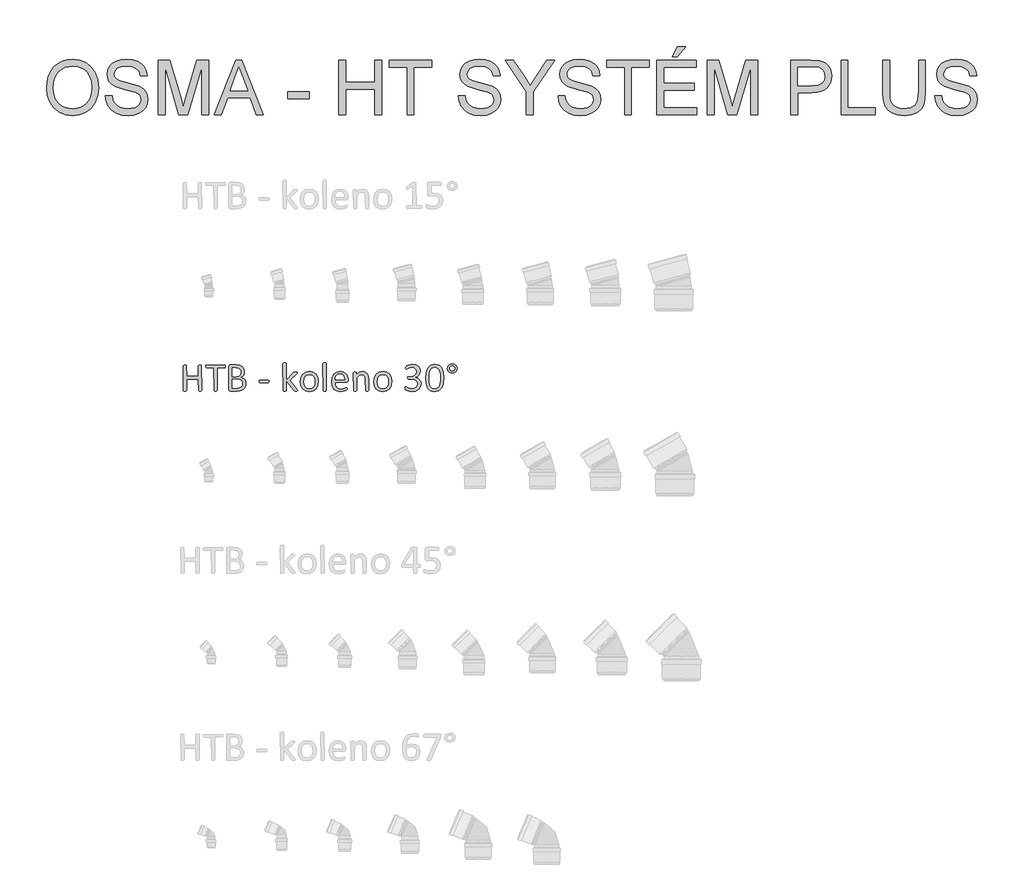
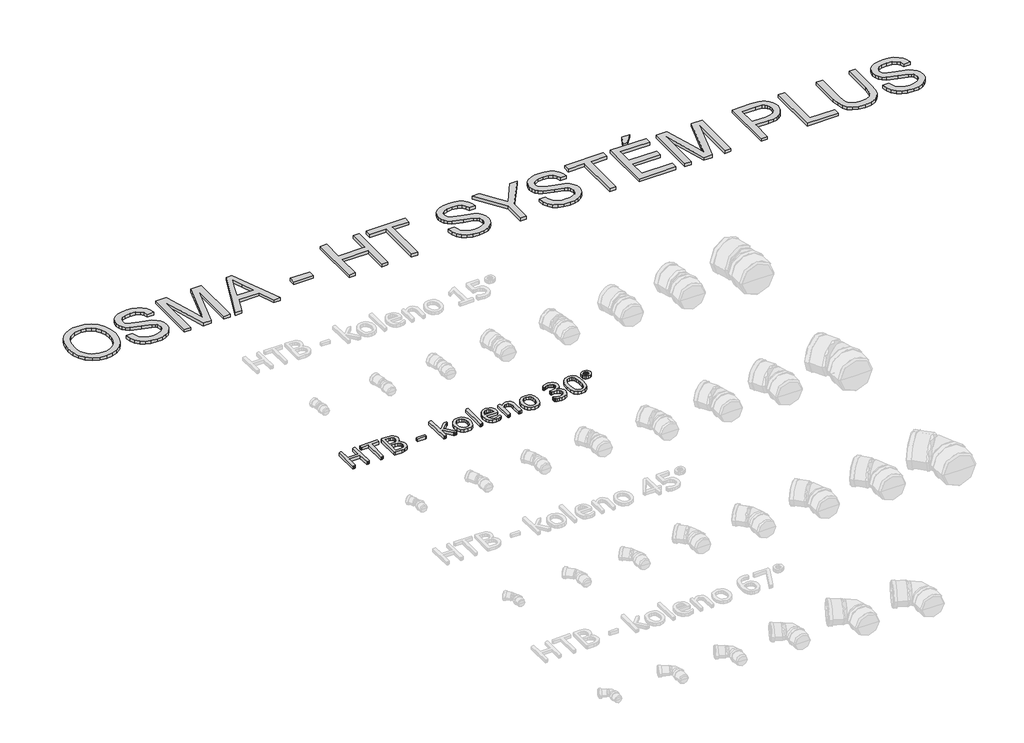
# One storey, part 25 of 26: 2 proxies.
"""IFC4 building model written with IfcOpenShell, lengths in millimetres."""

import ifcopenshell
import ifcopenshell.guid

model = None  # the IFC model being written
_history = None  # IfcOwnerHistory: only IFC2X3 demands one
_inside = {}  # id of a spatial element -> (the spatial element, [elements in it])
_under = {}  # id of a project, library or spatial element -> (it, [spatial elements below it])
_declared = {}  # id of a project -> (the project, [libraries it declares])
_typed = {}  # id of a type object -> (the type object, [elements of that type])
_made_of = {}  # id of a material, layer set ... -> (it, [elements and type objects made of it])


def new_model(schema):
    """Start an empty IFC model of exactly this schema.

    Asked for "IFC4X3", IfcOpenShell would pick the latest addendum, in which some entities
    have other attributes; the version numbers below select the first issue.
    IFC2X3 requires an IfcOwnerHistory on every rooted entity: one is made here for all.
    """
    global model, _history
    if schema == "IFC4X3":
        model = ifcopenshell.file(schema_version=(4, 3, 0, 0))
    else:
        model = ifcopenshell.file(schema=schema)
    _inside.clear()
    _under.clear()
    _declared.clear()
    _typed.clear()
    _made_of.clear()
    _history = None
    if model.schema == "IFC2X3":
        org = make("IfcOrganization", Name="unknown")
        user = make(
            "IfcPersonAndOrganization",
            ThePerson=make("IfcPerson", FamilyName="unknown"),
            TheOrganization=org,
        )
        app = make(
            "IfcApplication",
            ApplicationDeveloper=org,
            Version="unknown",
            ApplicationFullName="unknown",
            ApplicationIdentifier="unknown",
        )
        _history = make(
            "IfcOwnerHistory",
            OwningUser=user,
            OwningApplication=app,
            ChangeAction="ADDED",
            CreationDate=0,
        )
    return model


def make(cls, **values):
    """One entity of the class cls with the attributes given. An attribute that is None is left unset."""
    return model.create_entity(
        cls, **{name: value for name, value in values.items() if value is not None}
    )


def rooted(cls, **values):
    """An entity with a GlobalId (a new one), such as an element, a storey or a relation."""
    return make(cls, GlobalId=ifcopenshell.guid.new(), OwnerHistory=_history, **values)


def si_unit(unit_type, name, prefix=None):
    """IfcSIUnit, for example si_unit("LENGTHUNIT", "METRE", prefix="MILLI")."""
    return make("IfcSIUnit", UnitType=unit_type, Prefix=prefix, Name=name)


def assignment(units):
    """IfcUnitAssignment: the units of a project."""
    return None if units is None else make("IfcUnitAssignment", Units=units)


def point(xyz):
    """IfcCartesianPoint."""
    return None if xyz is None else make("IfcCartesianPoint", Coordinates=xyz)


def direction(xyz):
    """IfcDirection."""
    return None if xyz is None else make("IfcDirection", DirectionRatios=xyz)


def frame(location, z_axis=None, x_axis=None):
    """IfcAxis2Placement3D, a coordinate frame: its origin and axes. An axis left out is left unset."""
    return make(
        "IfcAxis2Placement3D",
        Location=point(location),
        Axis=direction(z_axis),
        RefDirection=direction(x_axis),
    )


def origin():
    """The frame at (0, 0, 0) with its axes left unset."""
    return frame((0.0, 0.0, 0.0))


def origin_with_axes():
    """The frame at (0, 0, 0) with the z axis (0, 0, 1) and the x axis (1, 0, 0) written out."""
    return frame((0.0, 0.0, 0.0), z_axis=(0.0, 0.0, 1.0), x_axis=(1.0, 0.0, 0.0))


def place(relative_to, where):
    """IfcLocalPlacement: puts the frame where relative to a parent placement (None: the world)."""
    return make(
        "IfcLocalPlacement", PlacementRelTo=relative_to, RelativePlacement=where
    )


def context(
    kind, dimensions, precision=None, world=None, true_north=None, identifier=None
):
    """IfcGeometricRepresentationContext, for example the 3D "Model" context."""
    return make(
        "IfcGeometricRepresentationContext",
        ContextIdentifier=identifier,
        ContextType=kind,
        CoordinateSpaceDimension=dimensions,
        Precision=precision,
        WorldCoordinateSystem=world,
        TrueNorth=true_north,
    )


def project(units=None, contexts=None):
    """IfcProject with its units and contexts."""
    return rooted(
        "IfcProject",
        Name="project",
        RepresentationContexts=contexts,
        UnitsInContext=assignment(units),
    )


def spatial(cls, under=None, at=None, **own):
    """A site, building, storey or space (cls), placed at a placement, below another one or the project."""
    s = rooted(cls, ObjectPlacement=at, **own)
    if under is not None:
        _under.setdefault(under.id(), (under, []))[1].append(s)
    return s


def polyline(points):
    """IfcPolyline through the points."""
    return make("IfcPolyline", Points=[point(p) for p in points])


def outline(outer, holes=None, kind="AREA"):
    """IfcArbitraryClosedProfileDef: a profile drawn as a closed curve; with holes, ...WithVoids."""
    if holes is None:
        return make("IfcArbitraryClosedProfileDef", ProfileType=kind, OuterCurve=outer)
    return make(
        "IfcArbitraryProfileDefWithVoids",
        ProfileType=kind,
        OuterCurve=outer,
        InnerCurves=holes,
    )


def extrude(swept, where, along, depth):
    """IfcExtrudedAreaSolid: the profile swept, set in the frame where, extruded along a direction by depth."""
    return make(
        "IfcExtrudedAreaSolid",
        SweptArea=swept,
        Position=where,
        ExtrudedDirection=direction(along),
        Depth=depth,
    )


def shape(context_of_items, identifier, shape_type, items):
    """IfcShapeRepresentation: the items that make up one representation, for example the "Body"."""
    return make(
        "IfcShapeRepresentation",
        ContextOfItems=context_of_items,
        RepresentationIdentifier=identifier,
        RepresentationType=shape_type,
        Items=items,
    )


def made_of(thing, what):
    """Note that an element or type object is made of a material, layer set ...; save() writes the relation."""
    if what is not None:
        _made_of.setdefault(what.id(), (what, []))[1].append(thing)
    return thing


def element(
    cls,
    number,
    at=None,
    inside=None,
    cuts=None,
    type_object=None,
    material=None,
    context=None,
    identifier="Body",
    shape_type=None,
    held_by="IfcProductDefinitionShape",
    body=None,
    shapes=None,
    **own,
):
    """One element of the class cls, such as IfcWall. Its Tag is "e" and its number.

    at: its placement. inside: the storey or other place that contains it. cuts: it is an
    opening in that element (IfcRelVoidsElement). A single representation is given by context,
    identifier, shape_type and body (its items); several are given by shapes. held_by: the class
    of the entity that holds the representations. save() writes the other relations.
    """
    e = rooted(cls, Tag="e%d" % number, ObjectPlacement=at, **own)
    if body is not None:
        shapes = [shape(context, identifier, shape_type, body)]
    if shapes is not None:
        e.Representation = make(held_by, Representations=shapes)
    if inside is not None:
        _inside.setdefault(inside.id(), (inside, []))[1].append(e)
    if cuts is not None:
        rooted(
            "IfcRelVoidsElement", RelatingBuildingElement=cuts, RelatedOpeningElement=e
        )
    if type_object is not None:
        _typed.setdefault(type_object.id(), (type_object, []))[1].append(e)
    return made_of(e, material)


def aggregate(whole, parts):
    """IfcRelAggregates: a whole, such as a stair, and the parts it consists of."""
    return rooted("IfcRelAggregates", RelatingObject=whole, RelatedObjects=parts)


def save(model, path):
    """Write the relations noted so far, then the file.

    IfcRelAggregates (storeys below a building ...), IfcRelContainedInSpatialStructure (elements
    in a storey), IfcRelDefinesByType, IfcRelAssociatesMaterial and IfcRelDeclares: one each for
    every whole, place, type object, material and project.
    """
    for whole, parts in _under.values():
        aggregate(whole, parts)
    for where, things in _inside.values():
        rooted(
            "IfcRelContainedInSpatialStructure",
            RelatedElements=things,
            RelatingStructure=where,
        )
    for kind, things in _typed.values():
        rooted("IfcRelDefinesByType", RelatedObjects=things, RelatingType=kind)
    for what, things in _made_of.values():
        rooted("IfcRelAssociatesMaterial", RelatedObjects=things, RelatingMaterial=what)
    for by, libraries in _declared.values():
        rooted("IfcRelDeclares", RelatingContext=by, RelatedDefinitions=libraries)
    model.write(path)


model = new_model("IFC4")

# Units and contexts
model_context = context("Model", 3, world=origin())
ifc_project = project(units=[si_unit("LENGTHUNIT", "METRE", prefix="MILLI")], contexts=[model_context])

# Site, building, storey
site = spatial("IfcSite", under=ifc_project)
building = spatial("IfcBuilding", under=site)
storey = spatial("IfcBuildingStorey", under=building, Name="Podlaží 1", Elevation=0.0)

# Proxies
placement = place(None, origin())
element("IfcBuildingElementProxy", 1, Name="100mm Arial", ObjectType="100mm Arial", at=placement, inside=storey, context=model_context, shape_type="SweptSolid", body=[
    extrude(outline(polyline([(-21168.6123917, 22699.0159257), (-21166.5200628, 22728.4733101), (-21160.2430763, 22754.5507786), (-21149.781432, 22777.2483313), (-21135.1351301, 22796.5659681), (-21117.1817223, 22811.9901872), (-21096.7987605, 22823.0074865), (-21073.9862447, 22829.6178661), (-21048.7441749, 22831.821326), (-21015.8034079, 22827.6826536), (-20986.2655494, 22815.2666362), (-20961.740083, 22795.4469937), (-20943.8364926, 22769.0974458), (-20932.8920032, 22737.4902511), (-20929.2438401, 22701.897668), (-20933.0836085, 22665.8299041), (-20944.6029134, 22633.7781853), (-20963.1656258, 22607.3826521), (-20988.1356162, 22588.2834452), (-21017.4205558, 22576.6951624), (-21048.9281159, 22572.8324014), (-21082.3747206, 22577.1013654), (-21112.0811917, 22589.9082573), (-21136.5453444, 22610.0957818), (-21154.2649938, 22636.5066434), (-21165.0255422, 22666.895229), (-21168.6123917, 22699.0159257)]), holes=[polyline([(-21137.2197947, 22698.7093574), (-21135.6505481, 22677.8972), (-21130.9428082, 22659.422626), (-21123.096575, 22643.2856356), (-21112.1118486, 22629.4862287), (-21098.7588818, 22618.4344404), (-21083.8079276, 22610.5403059), (-21067.2589859, 22605.8038252), (-21049.1120569, 22604.2249983), (-21030.6547274, 22605.8191536), (-21013.9103485, 22610.6016196), (-20998.8789201, 22618.5723961), (-20985.5604422, 22629.7314833), (-20974.65619, 22643.8221302), (-20966.8674383, 22660.5875857), (-20962.1941874, 22680.0278498), (-20960.636437, 22702.1429227), (-20963.3035815, 22729.9333418), (-20971.3050149, 22753.9529704), (-20984.4338036, 22773.5963361), (-21002.483014, 22788.2579664), (-21024.2570296, 22797.3860384), (-21048.5602339, 22800.4287291), (-21082.3287354, 22794.5656098), (-21111.0388594, 22776.9762519), (-21122.4930186, 22763.289892), (-21130.6745609, 22745.6832897), (-21135.5834863, 22724.1564448), (-21137.2197947, 22698.7093574)])]), origin_with_axes(), (0.0, 0.0, 1.0), 15.0),
    extrude(outline(polyline([(-20897.8512432, 22663.0861176), (-20866.4586463, 22663.0861176), (-20862.8564684, 22645.6653722), (-20856.3418914, 22631.6628638), (-20846.1791513, 22620.5497619), (-20831.6324841, 22611.7972361), (-20813.851521, 22606.1180578), (-20793.9858932, 22604.2249983), (-20776.49617, 22605.6582053), (-20761.183082, 22609.9578261), (-20748.7747289, 22616.763643), (-20739.9992104, 22625.7154382), (-20734.7798846, 22635.9931414), (-20733.0401094, 22646.7766824), (-20738.251771, 22666.3663987), (-20746.1918907, 22674.1149132), (-20759.5889267, 22680.621826), (-20805.2982646, 22692.6086477), (-20854.5024814, 22708.0903483), (-20870.129802, 22718.6516272), (-20881.2045829, 22731.450855), (-20887.8034662, 22746.21212), (-20890.003094, 22762.6595109), (-20887.2823001, 22781.0459465), (-20879.1199183, 22798.1907803), (-20865.7305465, 22812.7221191), (-20847.3287825, 22823.2680696), (-20825.2405344, 22829.6830119), (-20800.7917101, 22831.821326), (-20774.3042065, 22829.5833772), (-20751.1276408, 22822.8695308), (-20732.0897475, 22811.8177425), (-20718.0182612, 22796.5659681), (-20709.1124513, 22778.0645695), (-20705.5715871, 22757.2639083), (-20736.964184, 22757.2639083), (-20742.7276686, 22775.9952332), (-20754.7451471, 22789.5148966), (-20773.5224573, 22797.700271), (-20799.5654368, 22800.4287291), (-20826.2215531, 22797.7309278), (-20844.5083539, 22789.6375239), (-20855.0849613, 22777.7273443), (-20858.6104971, 22763.5792159), (-20856.1119652, 22751.5157521), (-20848.6163695, 22741.8128645), (-20830.8967201, 22733.1369808), (-20797.3581449, 22724.2771561), (-20741.8079636, 22708.519544), (-20723.9120374, 22697.1305305), (-20711.4270421, 22683.0743726), (-20704.0923949, 22666.5043544), (-20701.6475124, 22647.5737601), (-20704.4602769, 22628.2216343), (-20712.8985701, 22610.0191397), (-20726.6175029, 22594.3534981), (-20745.2721857, 22582.6119311), (-20767.7053232, 22575.2772838), (-20792.7596199, 22572.8324014), (-20823.5160876, 22575.468889), (-20848.8309673, 22583.3783519), (-20868.9954992, 22596.5914469), (-20884.300923, 22615.1388308), (-20894.126438, 22637.7329167), (-20897.8512432, 22663.0861176)])), origin_with_axes(), (0.0, 0.0, 1.0), 15.0),
    extrude(outline(polyline([(-20654.5586171, 22576.756476), (-20654.5586171, 22827.8972514), (-20600.5412774, 22827.8972514), (-20549.1604254, 22650.884698), (-20538.7984159, 22613.9125575), (-20527.5780151, 22653.9503813), (-20477.0555544, 22827.8972514), (-20423.0382148, 22827.8972514), (-20423.0382148, 22576.756476), (-20454.4308117, 22576.756476), (-20454.4308117, 22796.5046545), (-20517.5225739, 22576.756476), (-20560.074258, 22576.756476), (-20623.1660201, 22796.5046545), (-20623.1660201, 22576.756476), (-20654.5586171, 22576.756476)])), origin_with_axes(), (0.0, 0.0, 1.0), 15.0),
    extrude(outline(polyline([(-20397.3477888, 22576.756476), (-20297.0999451, 22827.8972514), (-20270.3671868, 22827.8972514), (-20170.1193431, 22576.756476), (-20203.2900363, 22576.756476), (-20232.0461456, 22655.2379683), (-20335.4822999, 22655.2379683), (-20364.1770955, 22576.756476), (-20397.3477888, 22576.756476)]), holes=[polyline([(-20323.9553307, 22686.6305652), (-20243.5118011, 22686.6305652), (-20266.1365438, 22748.3734268), (-20283.7335659, 22796.5046545), (-20299.3685507, 22753.7690294), (-20323.9553307, 22686.6305652)])]), origin_with_axes(), (0.0, 0.0, 1.0), 15.0),
    extrude(outline(polyline([(-20058.0992755, 22651.3138937), (-20058.0992755, 22682.7064906), (-19959.9974102, 22682.7064906), (-19959.9974102, 22651.3138937), (-20058.0992755, 22651.3138937)])), origin_with_axes(), (0.0, 0.0, 1.0), 15.0),
    extrude(outline(polyline([(-19822.6547986, 22576.756476), (-19822.6547986, 22827.8972514), (-19791.2622017, 22827.8972514), (-19791.2622017, 22725.8713114), (-19657.8436648, 22725.8713114), (-19657.8436648, 22827.8972514), (-19626.4510679, 22827.8972514), (-19626.4510679, 22576.756476), (-19657.8436648, 22576.756476), (-19657.8436648, 22694.4787145), (-19791.2622017, 22694.4787145), (-19791.2622017, 22576.756476), (-19822.6547986, 22576.756476)])), origin_with_axes(), (0.0, 0.0, 1.0), 15.0),
    extrude(outline(polyline([(-19508.7288294, 22576.756476), (-19508.7288294, 22796.5046545), (-19591.1343963, 22796.5046545), (-19591.1343963, 22827.8972514), (-19394.9306656, 22827.8972514), (-19394.9306656, 22796.5046545), (-19477.3362325, 22796.5046545), (-19477.3362325, 22576.756476), (-19508.7288294, 22576.756476)])), origin_with_axes(), (0.0, 0.0, 1.0), 15.0),
    extrude(outline(polyline([(-19273.2843525, 22663.0861176), (-19241.8917556, 22663.0861176), (-19238.2895777, 22645.6653722), (-19231.7750007, 22631.6628638), (-19221.6122606, 22620.5497619), (-19207.0655934, 22611.7972361), (-19189.2846303, 22606.1180578), (-19169.4190025, 22604.2249983), (-19151.9292793, 22605.6582053), (-19136.6161913, 22609.9578261), (-19124.2078382, 22616.763643), (-19115.4323197, 22625.7154382), (-19110.2129939, 22635.9931414), (-19108.4732187, 22646.7766824), (-19113.6848803, 22666.3663987), (-19121.625, 22674.1149132), (-19135.022036, 22680.621826), (-19180.7313739, 22692.6086477), (-19229.9355907, 22708.0903483), (-19245.5629113, 22718.6516272), (-19256.6376922, 22731.450855), (-19263.2365755, 22746.21212), (-19265.4362033, 22762.6595109), (-19262.7154094, 22781.0459465), (-19254.5530276, 22798.1907803), (-19241.1636558, 22812.7221191), (-19222.7618918, 22823.2680696), (-19200.6736437, 22829.6830119), (-19176.2248194, 22831.821326), (-19149.7373158, 22829.5833772), (-19126.5607501, 22822.8695308), (-19107.5228568, 22811.8177425), (-19093.4513705, 22796.5659681), (-19084.5455606, 22778.0645695), (-19081.0046964, 22757.2639083), (-19112.3972933, 22757.2639083), (-19118.1607779, 22775.9952332), (-19130.1782564, 22789.5148966), (-19148.9555666, 22797.700271), (-19174.9985461, 22800.4287291), (-19201.6546624, 22797.7309278), (-19219.9414632, 22789.6375239), (-19230.5180706, 22777.7273443), (-19234.0436064, 22763.5792159), (-19231.5450745, 22751.5157521), (-19224.0494788, 22741.8128645), (-19206.3298294, 22733.1369808), (-19172.7912542, 22724.2771561), (-19117.2410729, 22708.519544), (-19099.3451467, 22697.1305305), (-19086.8601514, 22683.0743726), (-19079.5255042, 22666.5043544), (-19077.0806217, 22647.5737601), (-19079.8933862, 22628.2216343), (-19088.3316794, 22610.0191397), (-19102.0506122, 22594.3534981), (-19120.705295, 22582.6119311), (-19143.1384325, 22575.2772838), (-19168.1927292, 22572.8324014), (-19198.9491969, 22575.468889), (-19224.2640766, 22583.3783519), (-19244.4286085, 22596.5914469), (-19259.7340323, 22615.1388308), (-19269.5595473, 22637.7329167), (-19273.2843525, 22663.0861176)])), origin_with_axes(), (0.0, 0.0, 1.0), 15.0),
    extrude(outline(polyline([(-18959.3583833, 22576.756476), (-18959.3583833, 22683.1356863), (-19057.4602487, 22827.8972514), (-19020.4267945, 22827.8972514), (-18968.0649238, 22750.5807187), (-18941.2708519, 22711.1560316), (-18914.4154662, 22753.4011474), (-18866.8973752, 22827.8972514), (-18829.863921, 22827.8972514), (-18927.9657864, 22683.1356863), (-18927.9657864, 22576.756476), (-18959.3583833, 22576.756476)])), origin_with_axes(), (0.0, 0.0, 1.0), 15.0),
    extrude(outline(polyline([(-18814.1676225, 22663.0861176), (-18782.7750256, 22663.0861176), (-18779.1728477, 22645.6653722), (-18772.6582707, 22631.6628638), (-18762.4955306, 22620.5497619), (-18747.9488634, 22611.7972361), (-18730.1679003, 22606.1180578), (-18710.3022726, 22604.2249983), (-18692.8125494, 22605.6582053), (-18677.4994613, 22609.9578261), (-18665.0911082, 22616.763643), (-18656.3155898, 22625.7154382), (-18651.096264, 22635.9931414), (-18649.3564887, 22646.7766824), (-18654.5681503, 22666.3663987), (-18662.50827, 22674.1149132), (-18675.905306, 22680.621826), (-18721.6146439, 22692.6086477), (-18770.8188608, 22708.0903483), (-18786.4461813, 22718.6516272), (-18797.5209622, 22731.450855), (-18804.1198455, 22746.21212), (-18806.3194733, 22762.6595109), (-18803.5986794, 22781.0459465), (-18795.4362976, 22798.1907803), (-18782.0469258, 22812.7221191), (-18763.6451619, 22823.2680696), (-18741.5569137, 22829.6830119), (-18717.1080895, 22831.821326), (-18690.6205858, 22829.5833772), (-18667.4440201, 22822.8695308), (-18648.4061269, 22811.8177425), (-18634.3346405, 22796.5659681), (-18625.4288306, 22778.0645695), (-18621.8879664, 22757.2639083), (-18653.2805633, 22757.2639083), (-18659.0440479, 22775.9952332), (-18671.0615264, 22789.5148966), (-18689.8388366, 22797.700271), (-18715.8818161, 22800.4287291), (-18742.5379324, 22797.7309278), (-18760.8247332, 22789.6375239), (-18771.4013406, 22777.7273443), (-18774.9268764, 22763.5792159), (-18772.4283445, 22751.5157521), (-18764.9327488, 22741.8128645), (-18747.2130994, 22733.1369808), (-18713.6745242, 22724.2771561), (-18658.1243429, 22708.519544), (-18640.2284167, 22697.1305305), (-18627.7434215, 22683.0743726), (-18620.4087742, 22666.5043544), (-18617.9638918, 22647.5737601), (-18620.7766562, 22628.2216343), (-18629.2149494, 22610.0191397), (-18642.9338822, 22594.3534981), (-18661.588565, 22582.6119311), (-18684.0217025, 22575.2772838), (-18709.0759992, 22572.8324014), (-18739.8324669, 22575.468889), (-18765.1473467, 22583.3783519), (-18785.3118785, 22596.5914469), (-18800.6173024, 22615.1388308), (-18810.4428173, 22637.7329167), (-18814.1676225, 22663.0861176)])), origin_with_axes(), (0.0, 0.0, 1.0), 15.0),
    extrude(outline(polyline([(-18508.0898025, 22576.756476), (-18508.0898025, 22796.5046545), (-18590.4953695, 22796.5046545), (-18590.4953695, 22827.8972514), (-18394.2916387, 22827.8972514), (-18394.2916387, 22796.5046545), (-18476.6972056, 22796.5046545), (-18476.6972056, 22576.756476), (-18508.0898025, 22576.756476)])), origin_with_axes(), (0.0, 0.0, 1.0), 15.0),
    extrude(outline(polyline([(-18288.3416241, 22843.5935499), (-18264.7971764, 22890.6824452), (-18225.5564302, 22890.6824452), (-18264.7971764, 22843.5935499), (-18288.3416241, 22843.5935499)])), origin_with_axes(), (0.0, 0.0, 1.0), 15.0),
    extrude(outline(polyline([(-18358.9749672, 22576.756476), (-18358.9749672, 22827.8972514), (-18178.4675349, 22827.8972514), (-18178.4675349, 22796.5046545), (-18327.5823702, 22796.5046545), (-18327.5823702, 22721.9472368), (-18186.3156841, 22721.9472368), (-18186.3156841, 22690.5546399), (-18327.5823702, 22690.5546399), (-18327.5823702, 22608.1490729), (-18174.5434602, 22608.1490729), (-18174.5434602, 22576.756476), (-18358.9749672, 22576.756476)])), origin_with_axes(), (0.0, 0.0, 1.0), 15.0),
    extrude(outline(polyline([(-18127.4545649, 22576.756476), (-18127.4545649, 22827.8972514), (-18073.4372252, 22827.8972514), (-18022.0563732, 22650.884698), (-18011.6943637, 22613.9125575), (-18000.4739629, 22653.9503813), (-17949.9515022, 22827.8972514), (-17895.9341626, 22827.8972514), (-17895.9341626, 22576.756476), (-17927.3267595, 22576.756476), (-17927.3267595, 22796.5046545), (-17990.4185217, 22576.756476), (-18032.9702058, 22576.756476), (-18096.0619679, 22796.5046545), (-18096.0619679, 22576.756476), (-18127.4545649, 22576.756476)])), origin_with_axes(), (0.0, 0.0, 1.0), 15.0),
    extrude(outline(polyline([(-17742.8952526, 22576.756476), (-17742.8952526, 22827.8972514), (-17649.8211078, 22827.8972514), (-17612.2971443, 22825.5060184), (-17595.5661777, 22821.037785), (-17581.7935955, 22813.7644514), (-17570.7034862, 22803.3564566), (-17562.0199383, 22789.4842397), (-17556.4097378, 22773.1211551), (-17554.539671, 22755.2405573), (-17559.5903843, 22725.6413851), (-17574.7425239, 22700.9779631), (-17586.8768816, 22691.2674112), (-17603.0771018, 22684.3313028), (-17623.3431844, 22680.1696377), (-17647.6751295, 22678.782416), (-17711.5026556, 22678.782416), (-17711.5026556, 22576.756476), (-17742.8952526, 22576.756476)]), holes=[polyline([(-17711.5026556, 22710.1750129), (-17645.8357195, 22710.1750129), (-17617.9993152, 22713.0567552), (-17599.6052154, 22721.7019821), (-17589.3505048, 22735.574199), (-17585.932268, 22754.1369114), (-17587.9479547, 22768.2390545), (-17593.995015, 22780.1339057), (-17603.3223564, 22789.0857009), (-17615.1788866, 22794.3586762), (-17646.5714835, 22796.5046545), (-17711.5026556, 22796.5046545), (-17711.5026556, 22710.1750129)])]), origin_with_axes(), (0.0, 0.0, 1.0), 15.0),
    extrude(outline(polyline([(-17511.3748503, 22576.756476), (-17511.3748503, 22827.8972514), (-17479.9822533, 22827.8972514), (-17479.9822533, 22608.1490729), (-17354.4118657, 22608.1490729), (-17354.4118657, 22576.756476), (-17511.3748503, 22576.756476)])), origin_with_axes(), (0.0, 0.0, 1.0), 15.0),
    extrude(outline(polyline([(-17154.2840603, 22827.8972514), (-17122.8914634, 22827.8972514), (-17122.8914634, 22683.013059), (-17125.0221133, 22649.0836091), (-17131.4140629, 22622.9563232), (-17143.3548993, 22602.7994556), (-17162.1322095, 22586.7812604), (-17187.7919787, 22576.3196161), (-17220.3801921, 22572.8324014), (-17252.2556341, 22575.8674279), (-17277.7391265, 22584.9725072), (-17296.8383334, 22599.833407), (-17309.5609191, 22620.1358946), (-17316.7116254, 22647.3668265), (-17319.0951941, 22683.013059), (-17319.0951941, 22827.8972514), (-17287.7025972, 22827.8972514), (-17287.7025972, 22684.1167049), (-17286.1544271, 22655.9047544), (-17281.509917, 22636.2613887), (-17273.0946163, 22622.6574191), (-17260.2340749, 22612.5636569), (-17243.4647873, 22606.309663), (-17223.323248, 22604.2249983), (-17191.3941566, 22608.3483424), (-17170.1642997, 22620.7183744), (-17163.216695, 22630.8657861), (-17158.2541202, 22644.8146451), (-17154.2840603, 22684.1167049), (-17154.2840603, 22827.8972514)])), origin_with_axes(), (0.0, 0.0, 1.0), 15.0),
    extrude(outline(polyline([(-17079.7266426, 22663.0861176), (-17048.3340457, 22663.0861176), (-17044.7318678, 22645.6653722), (-17038.2172908, 22631.6628638), (-17028.0545507, 22620.5497619), (-17013.5078835, 22611.7972361), (-16995.7269204, 22606.1180578), (-16975.8612926, 22604.2249983), (-16958.3715694, 22605.6582053), (-16943.0584814, 22609.9578261), (-16930.6501283, 22616.763643), (-16921.8746098, 22625.7154382), (-16916.655284, 22635.9931414), (-16914.9155088, 22646.7766824), (-16920.1271704, 22666.3663987), (-16928.0672901, 22674.1149132), (-16941.4643261, 22680.621826), (-16987.173664, 22692.6086477), (-17036.3778808, 22708.0903483), (-17052.0052014, 22718.6516272), (-17063.0799823, 22731.450855), (-17069.6788656, 22746.21212), (-17071.8784934, 22762.6595109), (-17069.1576994, 22781.0459465), (-17060.9953177, 22798.1907803), (-17047.6059459, 22812.7221191), (-17029.2041819, 22823.2680696), (-17007.1159338, 22829.6830119), (-16982.6671095, 22831.821326), (-16956.1796059, 22829.5833772), (-16933.0030402, 22822.8695308), (-16913.9651469, 22811.8177425), (-16899.8936606, 22796.5659681), (-16890.9878507, 22778.0645695), (-16887.4469865, 22757.2639083), (-16918.8395834, 22757.2639083), (-16924.603068, 22775.9952332), (-16936.6205465, 22789.5148966), (-16955.3978566, 22797.700271), (-16981.4408362, 22800.4287291), (-17008.0969525, 22797.7309278), (-17026.3837533, 22789.6375239), (-17036.9603607, 22777.7273443), (-17040.4858964, 22763.5792159), (-17037.9873646, 22751.5157521), (-17030.4917689, 22741.8128645), (-17012.7721195, 22733.1369808), (-16979.2335442, 22724.2771561), (-16923.683363, 22708.519544), (-16905.7874368, 22697.1305305), (-16893.3024415, 22683.0743726), (-16885.9677943, 22666.5043544), (-16883.5229118, 22647.5737601), (-16886.3356763, 22628.2216343), (-16894.7739695, 22610.0191397), (-16908.4929023, 22594.3534981), (-16927.1475851, 22582.6119311), (-16949.5807226, 22575.2772838), (-16974.6350193, 22572.8324014), (-17005.3914869, 22575.468889), (-17030.7063667, 22583.3783519), (-17050.8708986, 22596.5914469), (-17066.1763224, 22615.1388308), (-17076.0018374, 22637.7329167), (-17079.7266426, 22663.0861176)])), origin_with_axes(), (0.0, 0.0, 1.0), 15.0),
])
element("IfcBuildingElementProxy", 2, Name="120mm Arial", ObjectType="120mm Arial", at=placement, inside=storey, context=model_context, shape_type="SweptSolid", body=[
    extrude(outline(polyline([(-20454.3813255, 21307.5389944), (-20458.5973427, 21304.8067258), (-20462.45147, 21304.5714973), (-20466.4322587, 21304.8067258), (-20468.8931099, 21305.3495606), (-20470.5939924, 21360.1577836), (-20523.8641833, 21360.1577836), (-20523.8641833, 21307.5028054), (-20528.062106, 21304.8067258), (-20531.9705167, 21304.5714973), (-20535.8427385, 21304.8067258), (-20538.3759677, 21305.3676551), (-20540.0768502, 21422.0409538), (-20535.8427385, 21424.7732224), (-20531.9705167, 21425.0084509), (-20528.062106, 21424.7732224), (-20525.5650658, 21424.2122931), (-20523.8641833, 21374.0543551), (-20470.5939924, 21374.0543551), (-20470.5939924, 21422.0409538), (-20466.4322587, 21424.7732224), (-20462.45147, 21425.0084509), (-20458.5973427, 21424.7732224), (-20456.082208, 21424.2122931), (-20454.3813255, 21307.5389944)])), origin_with_axes(), (0.0, 0.0, 1.0), 15.0),
    extrude(outline(polyline([(-20345.5248483, 21417.9515981), (-20345.7057933, 21414.8212506), (-20346.3029116, 21412.6861003), (-20382.5823725, 21411.1118793), (-20382.5823725, 21307.5389944), (-20386.7802951, 21304.8067258), (-20390.6887059, 21304.5714973), (-20394.5609276, 21304.8067258), (-20397.0941568, 21305.3676551), (-20398.7950393, 21411.1118793), (-20432.7041215, 21411.1118793), (-20435.617335, 21414.8212506), (-20435.8525635, 21417.9515981), (-20435.617335, 21421.1543236), (-20435.0021222, 21423.3980409), (-20348.7094793, 21425.0084509), (-20346.3210061, 21423.3980409), (-20345.7057933, 21421.1543236), (-20345.5248483, 21417.9515981)])), origin_with_axes(), (0.0, 0.0, 1.0), 15.0),
    extrude(outline(polyline([(-20250.5649427, 21338.6253355), (-20251.9944077, 21328.3114737), (-20256.0113854, 21319.8070615), (-20262.2358914, 21313.2025711), (-20270.4507918, 21308.4256246), (-20280.2399132, 21305.5305055), (-20292.1822794, 21304.5714973), (-20323.4133764, 21304.5714973), (-20327.4122596, 21306.0190569), (-20329.3121815, 21311.0855152), (-20329.3121815, 21418.4944329), (-20327.3941651, 21423.5608913), (-20323.3409984, 21425.0084509), (-20295.9821231, 21425.0084509), (-20278.2676133, 21422.927584), (-20266.7776095, 21416.8840229), (-20259.8474182, 21407.1491851), (-20257.5132284, 21394.1030547), (-20258.5446146, 21385.7976819), (-20261.5663951, 21378.4694117), (-20266.5966645, 21372.4620396), (-20273.5449503, 21368.119361), (-20264.5700812, 21364.7718796), (-20257.2960945, 21358.5654681), (-20252.3743921, 21349.7534494), (-20250.5649427, 21338.6253355)]), holes=[polyline([(-20273.7258953, 21391.9317154), (-20274.9382264, 21399.9294819), (-20278.7380702, 21405.9911374), (-20285.505411, 21409.7909812), (-20296.561147, 21411.1118793), (-20313.0995147, 21411.1118793), (-20313.0995147, 21371.7382599), (-20294.8964535, 21371.7382599), (-20284.8721037, 21373.3848588), (-20278.5571252, 21377.7999154), (-20274.8839429, 21384.2777444), (-20273.7258953, 21391.9317154)]), polyline([(-20266.7776095, 21338.4805795), (-20268.4784919, 21347.8173385), (-20273.4544778, 21354.5846794), (-20281.6693782, 21358.746413), (-20294.1002957, 21360.1577836), (-20313.0995147, 21360.1577836), (-20313.0995147, 21318.4680689), (-20290.047129, 21318.4680689), (-20280.5294251, 21319.752778), (-20273.3820999, 21323.5526218), (-20268.5327754, 21329.8133168), (-20266.7776095, 21338.4805795)])]), origin_with_axes(), (0.0, 0.0, 1.0), 15.0),
    extrude(outline(polyline([(-20144.0245607, 21349.7715439), (-20144.8750019, 21345.2117313), (-20147.3539476, 21343.9451168), (-20186.944701, 21343.9451168), (-20189.4960247, 21345.2479203), (-20190.3464659, 21349.7715439), (-20189.4960247, 21354.2589785), (-20186.944701, 21355.5255931), (-20147.3539476, 21355.5255931), (-20144.2597891, 21352.485718), (-20144.0245607, 21349.7715439)])), origin_with_axes(), (0.0, 0.0, 1.0), 15.0),
    extrude(outline(polyline([(-20012.0071309, 21307.5028054), (-20016.0783921, 21304.7524423), (-20020.0772753, 21304.5714973), (-20024.20282, 21304.7162533), (-20026.9531831, 21305.1686156), (-20028.7626325, 21306.0733404), (-20030.0292471, 21307.5028054), (-20065.2773219, 21353.0647418), (-20065.2773219, 21307.3942384), (-20069.4028665, 21304.7524423), (-20073.4198443, 21304.5714973), (-20077.364444, 21304.7524423), (-20079.8614842, 21305.3133716), (-20081.4899887, 21431.3053348), (-20077.364444, 21434.0918869), (-20073.4198443, 21434.2728319), (-20069.4028665, 21434.0918869), (-20066.9601098, 21433.5309576), (-20065.6754007, 21432.5900439), (-20065.2773219, 21355.1637032), (-20033.0691221, 21389.3984862), (-20031.4587122, 21390.9003292), (-20029.4321288, 21391.8955264), (-20026.6455767, 21392.4383613), (-20022.7552604, 21392.5831172), (-20018.7744717, 21392.4383613), (-20016.186959, 21391.9859989), (-20014.757494, 21391.1717467), (-20014.9565334, 21387.6433203), (-20017.0735893, 21385.0919966), (-20049.064655, 21355.2722701), (-20014.2870371, 21311.809295), (-20012.5318712, 21309.2941603), (-20012.0071309, 21307.5028054)])), origin_with_axes(), (0.0, 0.0, 1.0), 15.0),
    extrude(outline(polyline([(-19917.0472252, 21349.482032), (-19919.7252104, 21330.5009075), (-19927.7410713, 21315.5548553), (-19941.094808, 21305.7657339), (-19959.6778536, 21302.2554021), (-19977.5914029, 21305.3495606), (-19990.3299268, 21314.3425242), (-19997.9296144, 21328.6733636), (-20000.4266546, 21347.7811495), (-19997.7848584, 21366.762274), (-19989.823281, 21381.6902317), (-19976.5238277, 21391.4250696), (-19957.9045932, 21394.8992125), (-19939.9729494, 21391.805054), (-19927.2344255, 21382.8120903), (-19919.5985489, 21368.4812509), (-19917.0472252, 21349.482032)]), holes=[polyline([(-19933.259892, 21348.3963623), (-19934.5084121, 21360.9720358), (-19938.6158623, 21371.3582755), (-19946.3422114, 21378.4151282), (-19958.519806, 21381.0026409), (-19970.0821878, 21378.6322622), (-19978.0437652, 21371.9372993), (-19982.6940502, 21361.6958156), (-19984.2139878, 21348.7582522), (-19982.9654677, 21336.1102008), (-19978.8218285, 21325.7601501), (-19971.041196, 21318.7394863), (-19958.8816958, 21316.1519736), (-19947.355503, 21318.5223524), (-19939.3396421, 21325.1630318), (-19934.7255461, 21335.3683265), (-19933.259892, 21348.3963623)])]), origin_with_axes(), (0.0, 0.0, 1.0), 15.0),
    extrude(outline(polyline([(-19879.9897011, 21307.4304274), (-19884.1152457, 21304.7524423), (-19888.1322235, 21304.5714973), (-19892.0768232, 21304.7524423), (-19894.5738634, 21305.3133716), (-19896.2023679, 21431.3053348), (-19892.0768232, 21434.0918869), (-19888.1322235, 21434.2728319), (-19884.1152457, 21434.0918869), (-19881.672489, 21433.5309576), (-19879.9897011, 21307.4304274)])), origin_with_axes(), (0.0, 0.0, 1.0), 15.0),
    extrude(outline(polyline([(-19780.3976049, 21352.8837969), (-19782.1889598, 21347.7811495), (-19786.29641, 21346.261212), (-19840.6160816, 21346.261212), (-19839.2589946, 21332.8712863), (-19834.7534655, 21322.6659915), (-19826.5385651, 21316.1157846), (-19814.1619311, 21313.8358784), (-19803.8842584, 21314.9034535), (-19796.0674369, 21317.3100213), (-19790.6571831, 21319.716589), (-19787.4544576, 21320.7841642), (-19785.1564569, 21317.8890451), (-19785.0297954, 21315.2472489), (-19785.1202679, 21313.311138), (-19789.5715134, 21307.9189788), (-19795.9226809, 21305.4219386), (-19804.969928, 21303.2325048), (-19815.9351915, 21302.2554021), (-19833.6135124, 21305.1505211), (-19846.3701308, 21313.7635004), (-19854.1869523, 21328.1124343), (-19856.8287485, 21348.1430394), (-19854.0602908, 21367.6850932), (-19846.0806189, 21382.3778225), (-19833.4868509, 21391.660298), (-19816.9484832, 21394.8992125), (-19800.3015485, 21391.768865), (-19788.9924896, 21383.3368307), (-19782.4784717, 21370.9059131), (-19780.3976049, 21355.670349), (-19780.3976049, 21352.8837969)]), holes=[polyline([(-19796.6102717, 21357.8416883), (-19797.7818902, 21368.46768), (-19801.8033915, 21376.5333008), (-19808.575256, 21381.6223773), (-19817.9979639, 21383.3187362), (-19827.6423293, 21381.2197748), (-19834.5725206, 21375.6285761), (-19838.8971047, 21367.5041482), (-19840.6160816, 21357.8416883), (-19796.6102717, 21357.8416883)])]), origin_with_axes(), (0.0, 0.0, 1.0), 15.0),
    extrude(outline(polyline([(-19685.4376992, 21307.4304274), (-19689.5632439, 21304.7524423), (-19693.5078436, 21304.5714973), (-19697.5248214, 21304.7524423), (-19699.9675781, 21305.2952771), (-19701.650366, 21355.778916), (-19702.7179412, 21367.1422583), (-19705.8120997, 21374.5790955), (-19711.0775975, 21379.3560419), (-19718.5506236, 21381.0026409), (-19729.5339816, 21376.9675687), (-19741.0239855, 21365.115675), (-19741.0239855, 21307.4304274), (-19745.1495301, 21304.7524423), (-19749.1665079, 21304.5714973), (-19753.1111076, 21304.7524423), (-19755.6081478, 21305.2952771), (-19757.2366523, 21389.7603761), (-19753.5091865, 21392.4383613), (-19749.8540986, 21392.5831172), (-19746.2713888, 21392.4383613), (-19744.0638605, 21391.8955264), (-19742.580112, 21378.8674906), (-19728.7378239, 21391.0450852), (-19714.8231578, 21394.8992125), (-19700.9989642, 21392.0764714), (-19691.9155281, 21384.5310673), (-19686.9395422, 21373.4753313), (-19685.4376992, 21358.2397672), (-19685.4376992, 21307.4304274)])), origin_with_axes(), (0.0, 0.0, 1.0), 15.0),
    extrude(outline(polyline([(-19578.8973173, 21349.482032), (-19581.5753024, 21330.5009075), (-19589.5911633, 21315.5548553), (-19602.9449001, 21305.7657339), (-19621.5279456, 21302.2554021), (-19639.4414949, 21305.3495606), (-19652.1800188, 21314.3425242), (-19659.7797064, 21328.6733636), (-19662.2767466, 21347.7811495), (-19659.6349505, 21366.762274), (-19651.673373, 21381.6902317), (-19638.3739197, 21391.4250696), (-19619.7546852, 21394.8992125), (-19601.8230414, 21391.805054), (-19589.0845175, 21382.8120903), (-19581.4486409, 21368.4812509), (-19578.8973173, 21349.482032)]), holes=[polyline([(-19595.1099841, 21348.3963623), (-19596.3585042, 21360.9720358), (-19600.4659544, 21371.3582755), (-19608.1923034, 21378.4151282), (-19620.369898, 21381.0026409), (-19631.9322798, 21378.6322622), (-19639.8938573, 21371.9372993), (-19644.5441423, 21361.6958156), (-19646.0640798, 21348.7582522), (-19644.8155597, 21336.1102008), (-19640.6719205, 21325.7601501), (-19632.891288, 21318.7394863), (-19620.7317879, 21316.1519736), (-19609.2055951, 21318.5223524), (-19601.1897341, 21325.1630318), (-19596.5756381, 21335.3683265), (-19595.1099841, 21348.3963623)])]), origin_with_axes(), (0.0, 0.0, 1.0), 15.0),
    extrude(outline(polyline([(-19444.5637922, 21338.5167685), (-19447.4046278, 21323.5526218), (-19455.5290557, 21312.1349959), (-19468.5932805, 21304.8248203), (-19486.1449399, 21302.2554021), (-19497.2549593, 21303.2505993), (-19506.4469624, 21305.6390725), (-19513.1057363, 21308.4980026), (-19516.4351232, 21310.6331529), (-19517.4846039, 21311.9721455), (-19518.1179112, 21313.6006499), (-19518.5340845, 21315.9348397), (-19518.6788405, 21319.3004156), (-19518.0274387, 21324.0773621), (-19516.1456113, 21325.4163547), (-19512.8343189, 21323.9507006), (-19506.4650569, 21320.7841642), (-19497.3816208, 21317.6176277), (-19485.855428, 21316.1519736), (-19474.9987314, 21317.7442891), (-19467.145721, 21322.2136292), (-19462.3687745, 21329.053348), (-19460.776459, 21337.6844218), (-19462.8211368, 21346.9307083), (-19468.7923199, 21354.0056555), (-19478.4728743, 21358.5654681), (-19491.5370992, 21360.1577836), (-19503.1899534, 21360.1577836), (-19506.7726633, 21363.2157531), (-19507.0983642, 21366.1289667), (-19506.8088523, 21368.7888573), (-19505.9946, 21370.5078343), (-19492.4780129, 21371.7382599), (-19481.132765, 21373.3486699), (-19472.6283527, 21377.9989549), (-19467.2723824, 21385.2548471), (-19465.4086495, 21394.6820785), (-19466.6571696, 21401.9017817), (-19470.4027299, 21407.9272483), (-19476.7900864, 21411.9623205), (-19485.746861, 21413.4279746), (-19495.9702502, 21411.9623205), (-19504.2756231, 21408.795784), (-19510.3191842, 21405.6292475), (-19513.6847601, 21404.1635935), (-19516.2179893, 21407.2396575), (-19516.3627452, 21410.4966665), (-19516.2722728, 21412.9394232), (-19515.8922884, 21414.7850616), (-19513.9561775, 21417.7163697), (-19510.3553732, 21420.2495989), (-19503.6423158, 21423.5066078), (-19494.4322182, 21426.220782), (-19483.2136318, 21427.3245461), (-19468.3580521, 21425.1532068), (-19457.700395, 21419.0010788), (-19451.3130385, 21409.4833748), (-19449.1959827, 21397.2153077), (-19450.6978257, 21386.4671782), (-19455.0947878, 21377.673254), (-19462.1878295, 21371.1411416), (-19471.8864784, 21367.3955813), (-19460.8307425, 21364.0842888), (-19452.2177632, 21357.8778773), (-19446.5903755, 21349.1744256), (-19444.5637922, 21338.5167685)])), origin_with_axes(), (0.0, 0.0, 1.0), 15.0),
    extrude(outline(polyline([(-19340.3395055, 21365.079486), (-19342.5289393, 21339.5300602), (-19349.8029259, 21319.6804), (-19363.0842847, 21306.8152146), (-19383.2958347, 21302.2554021), (-19402.4398096, 21306.3447578), (-19414.9611996, 21318.3595019), (-19421.710446, 21337.8834612), (-19423.7189348, 21364.5004622), (-19421.4752175, 21389.9956045), (-19414.2012309, 21409.8995482), (-19400.9741556, 21422.7647336), (-19380.8711725, 21427.3245461), (-19361.6186307, 21423.2351904), (-19349.0972407, 21411.2204463), (-19342.3479943, 21391.696487), (-19340.3395055, 21365.079486)]), holes=[polyline([(-19356.5521723, 21363.9576274), (-19357.2035741, 21380.0798217), (-19359.1215905, 21392.6916842), (-19362.4147884, 21402.0827267), (-19367.2460184, 21408.5605556), (-19373.6695638, 21412.2699269), (-19381.8120862, 21413.4279746), (-19394.7496496, 21409.7186032), (-19402.5845656, 21399.531403), (-19406.4748818, 21384.3501223), (-19407.506268, 21365.6223208), (-19406.0948975, 21342.7870691), (-19401.6436519, 21327.442938), (-19393.8630194, 21318.8299588), (-19382.354921, 21316.1519736), (-19373.1086345, 21317.8166671), (-19366.2508212, 21322.5936136), (-19361.5281582, 21330.0485452), (-19358.5244722, 21339.6748161), (-19356.9683457, 21351.128631), (-19356.5521723, 21363.9576274)])]), origin_with_axes(), (0.0, 0.0, 1.0), 15.0),
    extrude(outline(polyline([(-19277.8049335, 21409.1576739), (-19279.5600994, 21400.8884901), (-19284.4998963, 21394.1030547), (-19291.9910169, 21389.5613367), (-19301.3277759, 21387.9509267), (-19310.519779, 21389.4346752), (-19317.6851987, 21393.6145034), (-19322.4259562, 21400.0742378), (-19324.1268387, 21408.4338941), (-19322.3173892, 21416.9383064), (-19317.3414033, 21423.6332693), (-19309.9045662, 21428.0302314), (-19300.6039962, 21429.6406414), (-19291.4662766, 21428.1207039), (-19284.2465734, 21423.9408757), (-19279.5058159, 21417.5173302), (-19277.8049335, 21409.1576739)]), holes=[polyline([(-19289.3854098, 21408.831973), (-19290.2539455, 21413.4279746), (-19292.6786077, 21417.1011569), (-19296.387979, 21419.5077246), (-19301.074453, 21420.3762603), (-19305.5980766, 21419.5077246), (-19309.2531644, 21417.1011569), (-19311.6778266, 21413.482258), (-19312.5463624, 21409.012918), (-19311.6778266, 21404.1997825), (-19309.1988809, 21400.4904112), (-19305.3990371, 21398.0838435), (-19300.6763741, 21397.2153077), (-19296.2432231, 21398.1200324), (-19292.6424187, 21400.6170726), (-19290.2539455, 21404.290255), (-19289.3854098, 21408.831973)])]), origin_with_axes(), (0.0, 0.0, 1.0), 15.0),
])

save(model, "model.ifc")
